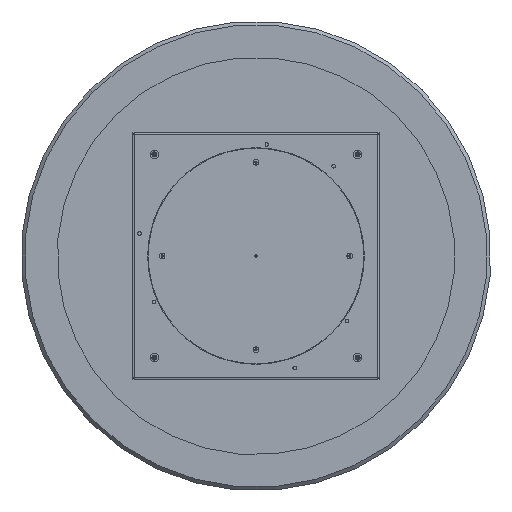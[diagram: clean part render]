
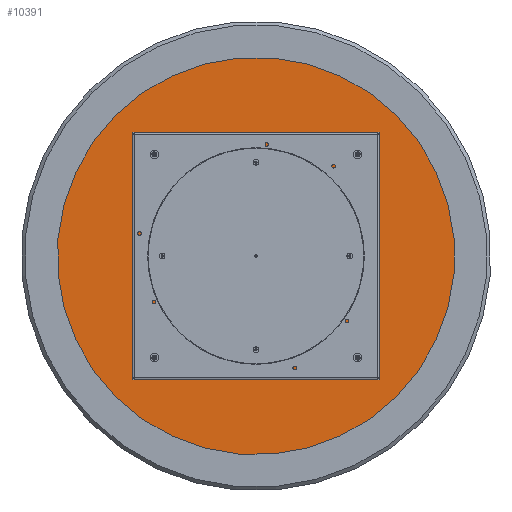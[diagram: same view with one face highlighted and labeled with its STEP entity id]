
A CAD part, front view. The second image highlights one B-rep face of the part: STEP entity #10391.
In plain terms, the highlighted planar face has unit normal (0, -1, 0).
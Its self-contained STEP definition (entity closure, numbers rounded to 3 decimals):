
#33 = EDGE_CURVE ( 'NONE', #9538, #1722, #9821, .T. ) ;
#134 = AXIS2_PLACEMENT_3D ( 'NONE', #3617, #2716, #6255 ) ;
#399 = ORIENTED_EDGE ( 'NONE', *, *, #8827, .F. ) ;
#701 = CARTESIAN_POINT ( 'NONE',  ( -397.5, 0., 3.4 ) ) ;
#1623 = AXIS2_PLACEMENT_3D ( 'NONE', #7374, #12217, #9587 ) ;
#1722 = VERTEX_POINT ( 'NONE', #11604 ) ;
#1883 = CIRCLE ( 'NONE', #8684, 3.4 ) ;
#1888 = DIRECTION ( 'NONE',  ( 0., -1., 0. ) ) ;
#1922 = VERTEX_POINT ( 'NONE', #701 ) ;
#2045 = DIRECTION ( 'NONE',  ( 0., -1., 0. ) ) ;
#2468 = CARTESIAN_POINT ( 'NONE',  ( 0., 0., -394.1 ) ) ;
#2716 = DIRECTION ( 'NONE',  ( 0., -1., 0. ) ) ;
#2745 = AXIS2_PLACEMENT_3D ( 'NONE', #3244, #15816, #4560 ) ;
#2981 = CARTESIAN_POINT ( 'NONE',  ( 0., 0., 550. ) ) ;
#3038 = ORIENTED_EDGE ( 'NONE', *, *, #8890, .F. ) ;
#3087 = DIRECTION ( 'NONE',  ( 0., 0., -1. ) ) ;
#3238 = DIRECTION ( 'NONE',  ( 0., 1., 0. ) ) ;
#3244 = CARTESIAN_POINT ( 'NONE',  ( 0., 0., 397.5 ) ) ;
#3293 = CARTESIAN_POINT ( 'NONE',  ( 397.5, 0., -3.4 ) ) ;
#3324 = CARTESIAN_POINT ( 'NONE',  ( -397.5, 0., -3.4 ) ) ;
#3541 = VERTEX_POINT ( 'NONE', #3324 ) ;
#3617 = CARTESIAN_POINT ( 'NONE',  ( 0., 0., 397.5 ) ) ;
#3846 = VERTEX_POINT ( 'NONE', #12156 ) ;
#3887 = EDGE_CURVE ( 'NONE', #4109, #3846, #10797, .T. ) ;
#4109 = VERTEX_POINT ( 'NONE', #12955 ) ;
#4170 = CARTESIAN_POINT ( 'NONE',  ( 0., 0., 400.9 ) ) ;
#4387 = CARTESIAN_POINT ( 'NONE',  ( -397.5, 0., 0. ) ) ;
#4560 = DIRECTION ( 'NONE',  ( 0., 0., -1. ) ) ;
#4581 = CARTESIAN_POINT ( 'NONE',  ( 397.5, 0., 0. ) ) ;
#4787 = EDGE_CURVE ( 'NONE', #3846, #4109, #10516, .T. ) ;
#4809 = DIRECTION ( 'NONE',  ( 0., 0., 1. ) ) ;
#5014 = EDGE_CURVE ( 'NONE', #9921, #12777, #1883, .T. ) ;
#5037 = CIRCLE ( 'NONE', #1623, 550. ) ;
#5082 = CARTESIAN_POINT ( 'NONE',  ( 0., 0., -400.9 ) ) ;
#5135 = DIRECTION ( 'NONE',  ( 0., -1., 0. ) ) ;
#5182 = EDGE_CURVE ( 'NONE', #14551, #11011, #5037, .T. ) ;
#5193 = EDGE_LOOP ( 'NONE', ( #8731, #6764 ) ) ;
#5906 = DIRECTION ( 'NONE',  ( 0., 0., -1. ) ) ;
#5959 = AXIS2_PLACEMENT_3D ( 'NONE', #9249, #9494, #3087 ) ;
#6130 = FACE_BOUND ( 'NONE', #7498, .T. ) ;
#6183 = AXIS2_PLACEMENT_3D ( 'NONE', #15640, #3238, #11767 ) ;
#6255 = DIRECTION ( 'NONE',  ( 0., 0., -1. ) ) ;
#6351 = EDGE_LOOP ( 'NONE', ( #10179, #9113 ) ) ;
#6427 = ORIENTED_EDGE ( 'NONE', *, *, #13226, .F. ) ;
#6764 = ORIENTED_EDGE ( 'NONE', *, *, #5182, .F. ) ;
#6775 = DIRECTION ( 'NONE',  ( 0., 0., -1. ) ) ;
#7178 = ORIENTED_EDGE ( 'NONE', *, *, #5014, .F. ) ;
#7262 = CARTESIAN_POINT ( 'NONE',  ( 0., 0., -397.5 ) ) ;
#7271 = FACE_OUTER_BOUND ( 'NONE', #5193, .T. ) ;
#7374 = CARTESIAN_POINT ( 'NONE',  ( 0., 0., 0. ) ) ;
#7398 = CARTESIAN_POINT ( 'NONE',  ( 0., 0., 0. ) ) ;
#7498 = EDGE_LOOP ( 'NONE', ( #3038, #6427 ) ) ;
#7900 = AXIS2_PLACEMENT_3D ( 'NONE', #7398, #12395, #13788 ) ;
#8079 = EDGE_CURVE ( 'NONE', #1722, #9538, #16117, .T. ) ;
#8222 = DIRECTION ( 'NONE',  ( 0., -1., 0. ) ) ;
#8344 = CARTESIAN_POINT ( 'NONE',  ( 0., 0., 0. ) ) ;
#8502 = FACE_BOUND ( 'NONE', #15676, .T. ) ;
#8522 = CARTESIAN_POINT ( 'NONE',  ( 397.5, 0., 3.4 ) ) ;
#8684 = AXIS2_PLACEMENT_3D ( 'NONE', #9352, #1888, #11970 ) ;
#8731 = ORIENTED_EDGE ( 'NONE', *, *, #8821, .F. ) ;
#8821 = EDGE_CURVE ( 'NONE', #11011, #14551, #14291, .T. ) ;
#8827 = EDGE_CURVE ( 'NONE', #1922, #3541, #14569, .T. ) ;
#8890 = EDGE_CURVE ( 'NONE', #15238, #10816, #11676, .T. ) ;
#9113 = ORIENTED_EDGE ( 'NONE', *, *, #4787, .F. ) ;
#9249 = CARTESIAN_POINT ( 'NONE',  ( -397.5, 0., 0. ) ) ;
#9352 = CARTESIAN_POINT ( 'NONE',  ( 397.5, 0., 0. ) ) ;
#9383 = AXIS2_PLACEMENT_3D ( 'NONE', #11214, #5135, #10368 ) ;
#9494 = DIRECTION ( 'NONE',  ( 0., -1., 0. ) ) ;
#9538 = VERTEX_POINT ( 'NONE', #4170 ) ;
#9587 = DIRECTION ( 'NONE',  ( 0., 0., 1. ) ) ;
#9645 = FACE_BOUND ( 'NONE', #16202, .T. ) ;
#9821 = CIRCLE ( 'NONE', #2745, 3.4 ) ;
#9921 = VERTEX_POINT ( 'NONE', #8522 ) ;
#10179 = ORIENTED_EDGE ( 'NONE', *, *, #3887, .F. ) ;
#10368 = DIRECTION ( 'NONE',  ( 0., 0., -1. ) ) ;
#10373 = AXIS2_PLACEMENT_3D ( 'NONE', #4581, #2045, #5906 ) ;
#10391 = ADVANCED_FACE ( 'NONE', ( #13343, #9645, #11053, #8502, #6130, #7271 ), #13669, .F. ) ;
#10516 = CIRCLE ( 'NONE', #7900, 6.3 ) ;
#10797 = CIRCLE ( 'NONE', #14995, 6.3 ) ;
#10816 = VERTEX_POINT ( 'NONE', #2468 ) ;
#11011 = VERTEX_POINT ( 'NONE', #12637 ) ;
#11053 = FACE_BOUND ( 'NONE', #13616, .T. ) ;
#11172 = AXIS2_PLACEMENT_3D ( 'NONE', #7262, #12343, #13418 ) ;
#11205 = EDGE_CURVE ( 'NONE', #12777, #9921, #13798, .T. ) ;
#11214 = CARTESIAN_POINT ( 'NONE',  ( 0., 0., -397.5 ) ) ;
#11604 = CARTESIAN_POINT ( 'NONE',  ( 0., 0., 394.1 ) ) ;
#11611 = EDGE_CURVE ( 'NONE', #3541, #1922, #15653, .T. ) ;
#11676 = CIRCLE ( 'NONE', #11172, 3.4 ) ;
#11767 = DIRECTION ( 'NONE',  ( 0., 0., 1. ) ) ;
#11970 = DIRECTION ( 'NONE',  ( 0., 0., -1. ) ) ;
#12156 = CARTESIAN_POINT ( 'NONE',  ( 0., 0., 6.3 ) ) ;
#12217 = DIRECTION ( 'NONE',  ( 0., 1., 0. ) ) ;
#12254 = CIRCLE ( 'NONE', #9383, 3.4 ) ;
#12272 = DIRECTION ( 'NONE',  ( 0., 1., 0. ) ) ;
#12343 = DIRECTION ( 'NONE',  ( 0., -1., 0. ) ) ;
#12395 = DIRECTION ( 'NONE',  ( 0., -1., 0. ) ) ;
#12454 = AXIS2_PLACEMENT_3D ( 'NONE', #4387, #15720, #6775 ) ;
#12637 = CARTESIAN_POINT ( 'NONE',  ( 0., 0., -550. ) ) ;
#12722 = ORIENTED_EDGE ( 'NONE', *, *, #33, .F. ) ;
#12777 = VERTEX_POINT ( 'NONE', #3293 ) ;
#12955 = CARTESIAN_POINT ( 'NONE',  ( 0., 0., -6.3 ) ) ;
#12983 = ORIENTED_EDGE ( 'NONE', *, *, #11205, .F. ) ;
#13226 = EDGE_CURVE ( 'NONE', #10816, #15238, #12254, .T. ) ;
#13343 = FACE_BOUND ( 'NONE', #6351, .T. ) ;
#13418 = DIRECTION ( 'NONE',  ( 0., 0., -1. ) ) ;
#13616 = EDGE_LOOP ( 'NONE', ( #14366, #12722 ) ) ;
#13669 = PLANE ( 'NONE',  #15623 ) ;
#13713 = ORIENTED_EDGE ( 'NONE', *, *, #11611, .F. ) ;
#13788 = DIRECTION ( 'NONE',  ( 0., 0., -1. ) ) ;
#13798 = CIRCLE ( 'NONE', #10373, 3.4 ) ;
#14291 = CIRCLE ( 'NONE', #6183, 550. ) ;
#14366 = ORIENTED_EDGE ( 'NONE', *, *, #8079, .F. ) ;
#14462 = CARTESIAN_POINT ( 'NONE',  ( 0., 0., 0. ) ) ;
#14538 = DIRECTION ( 'NONE',  ( 0., 0., -1. ) ) ;
#14551 = VERTEX_POINT ( 'NONE', #2981 ) ;
#14569 = CIRCLE ( 'NONE', #12454, 3.4 ) ;
#14995 = AXIS2_PLACEMENT_3D ( 'NONE', #14462, #8222, #14538 ) ;
#15238 = VERTEX_POINT ( 'NONE', #5082 ) ;
#15623 = AXIS2_PLACEMENT_3D ( 'NONE', #8344, #12272, #4809 ) ;
#15640 = CARTESIAN_POINT ( 'NONE',  ( 0., 0., 0. ) ) ;
#15653 = CIRCLE ( 'NONE', #5959, 3.4 ) ;
#15676 = EDGE_LOOP ( 'NONE', ( #12983, #7178 ) ) ;
#15720 = DIRECTION ( 'NONE',  ( 0., -1., 0. ) ) ;
#15816 = DIRECTION ( 'NONE',  ( 0., -1., 0. ) ) ;
#16117 = CIRCLE ( 'NONE', #134, 3.4 ) ;
#16202 = EDGE_LOOP ( 'NONE', ( #13713, #399 ) ) ;
